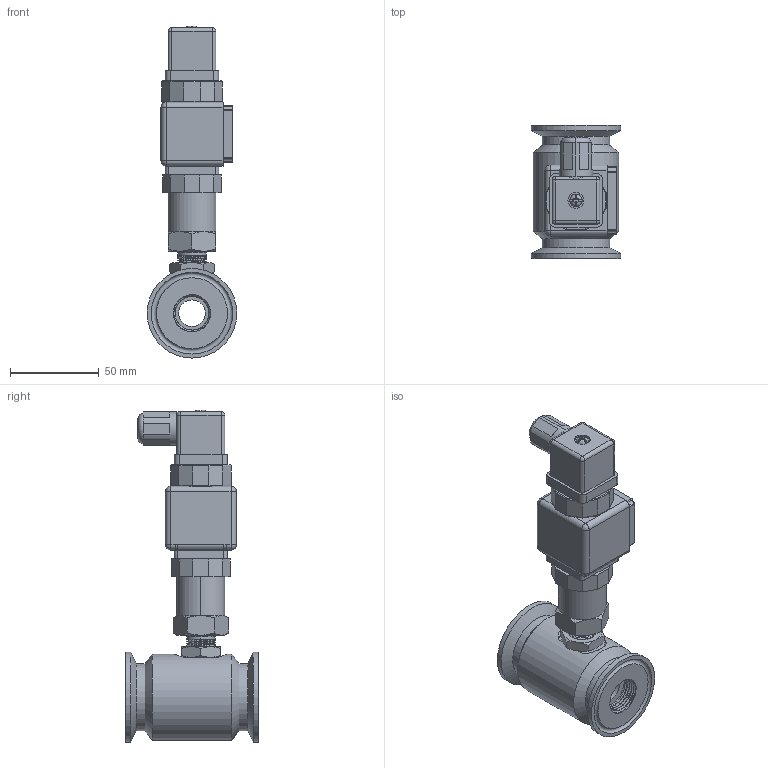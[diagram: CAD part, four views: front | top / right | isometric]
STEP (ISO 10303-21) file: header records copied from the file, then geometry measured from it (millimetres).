
FILE_DESCRIPTION( (''), '2;1');
FILE_NAME( 'QTKB_DN15_tri-clamp_DIN-plug_display.step', '2025-04-16T15:43:06+08:00', (''), (''), '', '', '');
FILE_SCHEMA (('AUTOMOTIVE_DESIGN { 1 0 10303 214 3 1 1 1 }'));
Length unit declared in the file: millimetre
Products named in the file (1): QTKB DN15_tri-clamp_DIN-plug_display
Bounding box: 50.5 x 75 x 187.25 mm (x, y, z)
Volume: 234962.8 mm3; surface area: 50496.8 mm2
Topology: 5 solids, 6 shells, 553 faces, 1426 edges, 921 vertices
Faces by surface type: plane 217, cylinder 143, extrusion 108, cone 43, bspline 28, sphere 8, torus 6
Full cylindrical faces by diameter (mm): 15 x1, 17 x1, 22 x2, 25 x1, 38 x2, 48.5 x1, 50.5 x2
Entity records: 27133 total; most frequent: CARTESIAN_POINT 14335, ORIENTED_EDGE 2778, DIRECTION 2273, EDGE_CURVE 1389, VERTEX_POINT 911, VECTOR 773, AXIS2_PLACEMENT_3D 750, LINE 665
